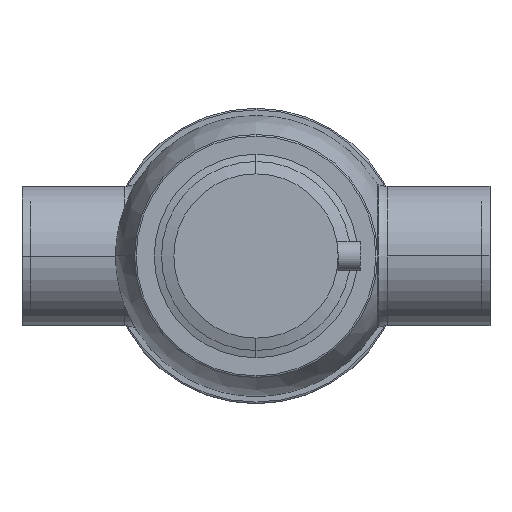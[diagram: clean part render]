
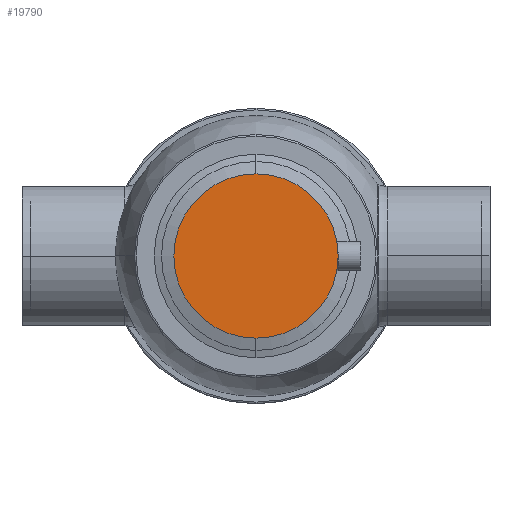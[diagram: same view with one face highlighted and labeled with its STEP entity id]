
A CAD part, front view. The second image highlights one B-rep face of the part: STEP entity #19790.
In plain terms, the highlighted planar face has unit normal (0, -1, 0) as drawn and (0, 0, -1) by its records, which use the part's own axes.
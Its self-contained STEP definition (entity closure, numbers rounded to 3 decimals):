
#11030=CARTESIAN_POINT('',(-50.,34.1,-20.));
#11040=VERTEX_POINT('',#11030);
#11220=CARTESIAN_POINT('',(50.,34.1,-20.));
#11230=VERTEX_POINT('',#11220);
#11260=CARTESIAN_POINT('',(0.,34.1,-20.));
#11270=DIRECTION('',(0.,0.,1.));
#11280=DIRECTION('',(1.,0.,0.));
#11290=AXIS2_PLACEMENT_3D('',#11260,#11270,#11280);
#11300=CIRCLE('',#11290,50.);
#11310=EDGE_CURVE('',#11040,#11230,#11300,.T.);
#19690=CARTESIAN_POINT('',(-48.25,34.1,-20.));
#19700=DIRECTION('',(0.,0.,-1.));
#19710=DIRECTION('',(-1.,0.,0.));
#19720=AXIS2_PLACEMENT_3D('',#19690,#19700,#19710);
#19730=PLANE('',#19720);
#19740=EDGE_CURVE('',#11230,#11040,#11300,.T.);
#19750=ORIENTED_EDGE('',*,*,#19740,.F.);
#19760=ORIENTED_EDGE('',*,*,#11310,.F.);
#19770=EDGE_LOOP('',(#19760,#19750));
#19780=FACE_OUTER_BOUND('',#19770,.T.);
#19790=ADVANCED_FACE('',(#19780),#19730,.T.);
